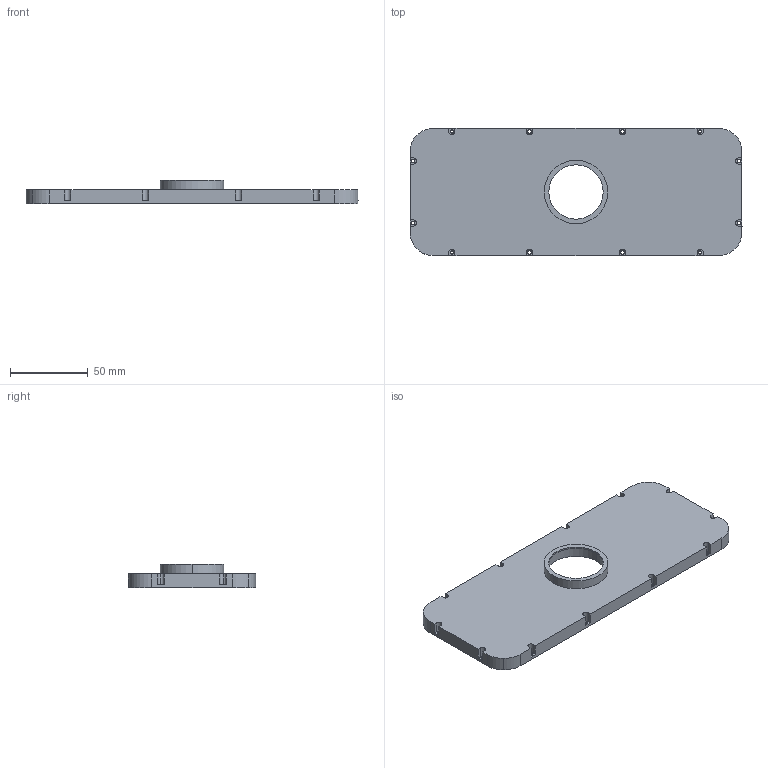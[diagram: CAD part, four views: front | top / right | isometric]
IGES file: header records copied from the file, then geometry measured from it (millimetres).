
Start section: IMSI TurboCAD v14.0
Global section: author: NULL; organization: NULL; date: 20231227.190649; units: millimetre
Bounding box: 214 x 82 x 15 mm (x, y, z)
Surface area: 44344.1 mm2 (no closed solid volume)
Topology: 0 solids, 0 shells, 138 faces, 798 edges, 798 vertices
Faces by surface type: revolution 77, extrusion 61
